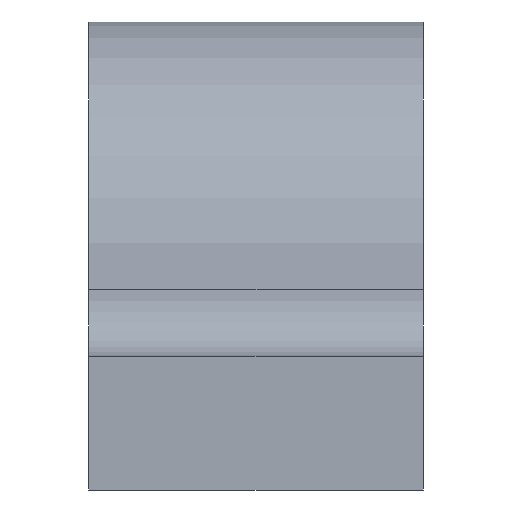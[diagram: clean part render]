
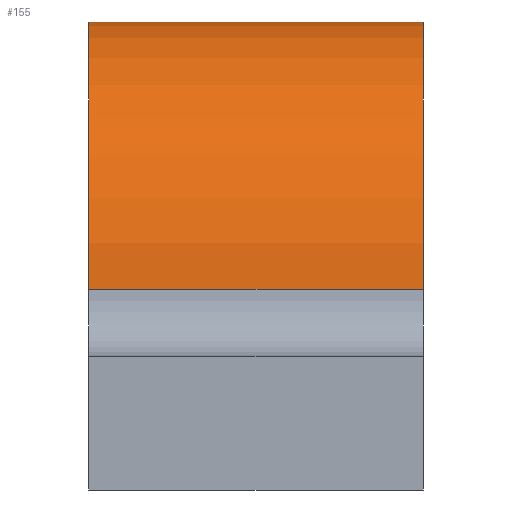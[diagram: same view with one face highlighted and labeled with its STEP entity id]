
A CAD part, front view. The second image highlights one B-rep face of the part: STEP entity #155.
In plain terms, the highlighted cylindrical face has radius 0.4 mm (diameter 0.8 mm), a partial arc.
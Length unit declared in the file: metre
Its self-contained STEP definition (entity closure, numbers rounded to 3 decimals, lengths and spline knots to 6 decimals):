
#20=LINE('',#235,#37);
#21=LINE('',#241,#38);
#37=VECTOR('',#190,1.);
#38=VECTOR('',#197,1.);
#57=ORIENTED_EDGE('',*,*,#99,.F.);
#58=ORIENTED_EDGE('',*,*,#98,.F.);
#59=ORIENTED_EDGE('',*,*,#100,.F.);
#60=ORIENTED_EDGE('',*,*,#101,.F.);
#98=EDGE_CURVE('',#119,#117,#20,.T.);
#99=EDGE_CURVE('',#117,#120,#132,.F.);
#100=EDGE_CURVE('',#121,#119,#133,.T.);
#101=EDGE_CURVE('',#120,#121,#21,.T.);
#117=VERTEX_POINT('',#230);
#119=VERTEX_POINT('',#234);
#120=VERTEX_POINT('',#238);
#121=VERTEX_POINT('',#240);
#132=CIRCLE('',#172,0.0004);
#133=CIRCLE('',#173,0.0004);
#135=EDGE_LOOP('',(#57,#58,#59,#60));
#144=FACE_BOUND('',#135,.T.);
#153=CYLINDRICAL_SURFACE('',#171,0.0004);
#155=ADVANCED_FACE('',(#144),#153,.T.);
#171=AXIS2_PLACEMENT_3D('',#236,#191,#192);
#172=AXIS2_PLACEMENT_3D('',#237,#193,#194);
#173=AXIS2_PLACEMENT_3D('',#239,#195,#196);
#190=DIRECTION('',(-1.,0.,0.));
#191=DIRECTION('',(1.,0.,0.));
#192=DIRECTION('',(0.,-0.707,0.707));
#193=DIRECTION('',(1.,0.,0.));
#194=DIRECTION('',(0.,1.,0.));
#195=DIRECTION('',(1.,0.,0.));
#196=DIRECTION('',(0.,1.,0.));
#197=DIRECTION('',(1.,0.,0.));
#230=CARTESIAN_POINT('',(0.025598,-0.003017,-0.0281));
#234=CARTESIAN_POINT('',(0.026098,-0.003017,-0.0281));
#235=CARTESIAN_POINT('',(0.024629,-0.003017,-0.0281));
#236=CARTESIAN_POINT('',(0.024629,-0.002617,-0.0281));
#237=CARTESIAN_POINT('',(0.025598,-0.002617,-0.0281));
#238=CARTESIAN_POINT('',(0.025598,-0.002617,-0.0277));
#239=CARTESIAN_POINT('',(0.026098,-0.002617,-0.0281));
#240=CARTESIAN_POINT('',(0.026098,-0.002617,-0.0277));
#241=CARTESIAN_POINT('',(0.025598,-0.002617,-0.0277));
